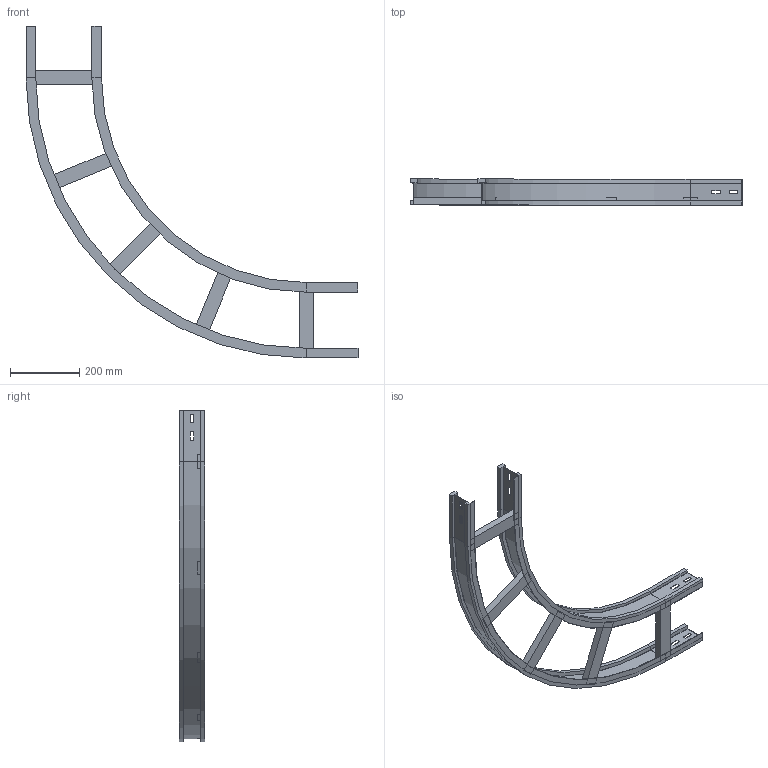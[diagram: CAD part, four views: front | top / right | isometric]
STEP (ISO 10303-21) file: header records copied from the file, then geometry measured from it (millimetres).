
FILE_DESCRIPTION (( 'STEP AP214' ), '1' );
FILE_NAME ('10S6C200.step', '2025-02-21T16:11:43', ( '' ), ( '' ), 'SwSTEP 2.0', 'SolidWorks 2023', '' );
FILE_SCHEMA (( 'AUTOMOTIVE_DESIGN' ));
Length unit declared in the file: millimetre
Products named in the file (4): LONGH.INTERNO 90°_H75_R600; LONGH.ESTERNO 90°_H75_R600+200; TRAVERSINO_200; 10S6C200
Assembly tree (7 placements, depth 2):
  10S6C200
    LONGH.INTERNO 90°_H75_R600
    LONGH.ESTERNO 90°_H75_R600+200
    TRAVERSINO_200  x5
Bounding box: 959 x 75 x 959 mm (x, y, z)
Volume: 2174413.8 mm3; surface area: 817853.4 mm2
Topology: 7 solids, 7 shells, 138 faces, 324 edges, 200 vertices
Faces by surface type: plane 126, cylinder 12
Entity records: 3405 total; most frequent: CARTESIAN_POINT 568, ORIENTED_EDGE 552, DIRECTION 548, EDGE_CURVE 276, VECTOR 252, LINE 252, VERTEX_POINT 168, AXIS2_PLACEMENT_3D 148
